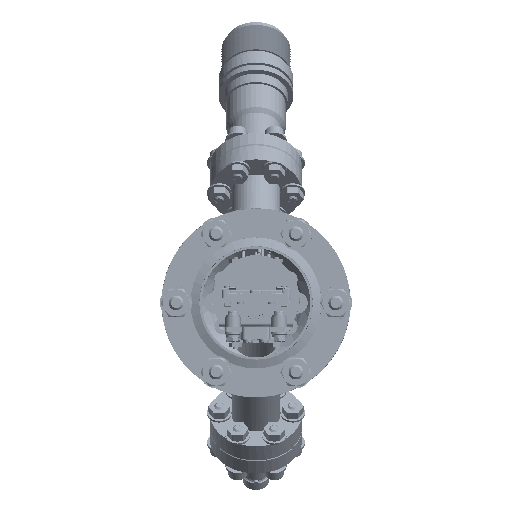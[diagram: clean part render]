
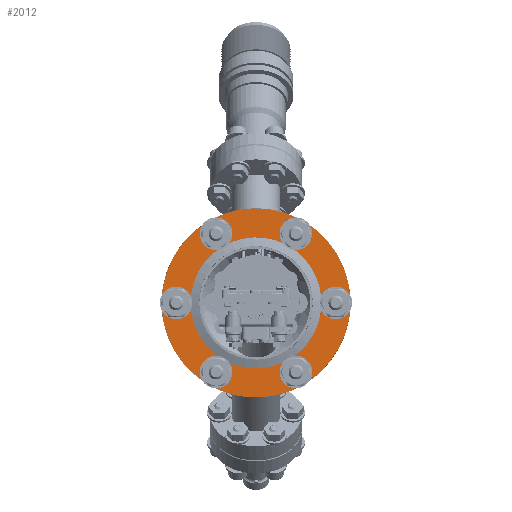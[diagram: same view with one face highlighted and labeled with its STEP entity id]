
A CAD part, left-side view. The second image highlights one B-rep face of the part: STEP entity #2012.
In plain terms, the highlighted planar face has unit normal (-1, 0, 0).
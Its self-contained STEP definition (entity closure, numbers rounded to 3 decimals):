
#1187=AXIS2_PLACEMENT_3D('Circle Axis2P3D',#1185,#1186,$) ;
#1534=AXIS2_PLACEMENT_3D('Circle Axis2P3D',#1532,#1533,$) ;
#1880=AXIS2_PLACEMENT_3D('Plane Axis2P3D',#1877,#1878,#1879) ;
#1888=AXIS2_PLACEMENT_3D('Circle Axis2P3D',#1886,#1887,$) ;
#1897=AXIS2_PLACEMENT_3D('Circle Axis2P3D',#1895,#1896,$) ;
#1906=AXIS2_PLACEMENT_3D('Circle Axis2P3D',#1904,#1905,$) ;
#1915=AXIS2_PLACEMENT_3D('Circle Axis2P3D',#1913,#1914,$) ;
#1924=AXIS2_PLACEMENT_3D('Circle Axis2P3D',#1922,#1923,$) ;
#1933=AXIS2_PLACEMENT_3D('Circle Axis2P3D',#1931,#1932,$) ;
#1942=AXIS2_PLACEMENT_3D('Circle Axis2P3D',#1940,#1941,$) ;
#1951=AXIS2_PLACEMENT_3D('Circle Axis2P3D',#1949,#1950,$) ;
#1960=AXIS2_PLACEMENT_3D('Circle Axis2P3D',#1958,#1959,$) ;
#1969=AXIS2_PLACEMENT_3D('Circle Axis2P3D',#1967,#1968,$) ;
#1978=AXIS2_PLACEMENT_3D('Circle Axis2P3D',#1976,#1977,$) ;
#1987=AXIS2_PLACEMENT_3D('Circle Axis2P3D',#1985,#1986,$) ;
#1996=AXIS2_PLACEMENT_3D('Circle Axis2P3D',#1994,#1995,$) ;
#2005=AXIS2_PLACEMENT_3D('Circle Axis2P3D',#2003,#2004,$) ;
#1182=CARTESIAN_POINT('Vertex',(0.,30.496,16.66)) ;
#1185=CARTESIAN_POINT('Axis2P3D Location',(0.,0.,0.)) ;
#1189=CARTESIAN_POINT('Vertex',(0.,-30.496,-16.66)) ;
#1532=CARTESIAN_POINT('Axis2P3D Location',(0.,0.,0.)) ;
#1877=CARTESIAN_POINT('Axis2P3D Location',(0.,24.1,0.)) ;
#1886=CARTESIAN_POINT('Axis2P3D Location',(0.,-29.35,0.)) ;
#1890=CARTESIAN_POINT('Vertex',(0.,-32.202,-1.558)) ;
#1892=CARTESIAN_POINT('Vertex',(0.,-26.498,1.558)) ;
#1895=CARTESIAN_POINT('Axis2P3D Location',(0.,-29.35,0.)) ;
#1904=CARTESIAN_POINT('Axis2P3D Location',(0.,0.,0.)) ;
#1908=CARTESIAN_POINT('Vertex',(0.,-21.15,-11.554)) ;
#1910=CARTESIAN_POINT('Vertex',(0.,21.15,11.554)) ;
#1913=CARTESIAN_POINT('Axis2P3D Location',(0.,0.,0.)) ;
#1922=CARTESIAN_POINT('Axis2P3D Location',(0.,-14.675,-25.418)) ;
#1926=CARTESIAN_POINT('Vertex',(0.,-11.823,-23.86)) ;
#1928=CARTESIAN_POINT('Vertex',(0.,-17.527,-26.976)) ;
#1931=CARTESIAN_POINT('Axis2P3D Location',(0.,-14.675,-25.418)) ;
#1940=CARTESIAN_POINT('Axis2P3D Location',(0.,14.675,-25.418)) ;
#1944=CARTESIAN_POINT('Vertex',(0.,17.527,-23.86)) ;
#1946=CARTESIAN_POINT('Vertex',(0.,11.823,-26.976)) ;
#1949=CARTESIAN_POINT('Axis2P3D Location',(0.,14.675,-25.418)) ;
#1958=CARTESIAN_POINT('Axis2P3D Location',(0.,29.35,0.)) ;
#1962=CARTESIAN_POINT('Vertex',(0.,32.202,1.558)) ;
#1964=CARTESIAN_POINT('Vertex',(0.,26.498,-1.558)) ;
#1967=CARTESIAN_POINT('Axis2P3D Location',(0.,29.35,0.)) ;
#1976=CARTESIAN_POINT('Axis2P3D Location',(0.,14.675,25.418)) ;
#1980=CARTESIAN_POINT('Vertex',(0.,17.527,26.976)) ;
#1982=CARTESIAN_POINT('Vertex',(0.,11.823,23.86)) ;
#1985=CARTESIAN_POINT('Axis2P3D Location',(0.,14.675,25.418)) ;
#1994=CARTESIAN_POINT('Axis2P3D Location',(0.,-14.675,25.418)) ;
#1998=CARTESIAN_POINT('Vertex',(0.,-11.823,26.976)) ;
#2000=CARTESIAN_POINT('Vertex',(0.,-17.527,23.86)) ;
#2003=CARTESIAN_POINT('Axis2P3D Location',(0.,-14.675,25.418)) ;
#1186=DIRECTION('Axis2P3D Direction',(1.,0.,-0.)) ;
#1533=DIRECTION('Axis2P3D Direction',(1.,0.,0.)) ;
#1878=DIRECTION('Axis2P3D Direction',(1.,0.,0.)) ;
#1879=DIRECTION('Axis2P3D XDirection',(0.,1.,0.)) ;
#1887=DIRECTION('Axis2P3D Direction',(1.,0.,0.)) ;
#1896=DIRECTION('Axis2P3D Direction',(1.,0.,0.)) ;
#1905=DIRECTION('Axis2P3D Direction',(1.,0.,0.)) ;
#1914=DIRECTION('Axis2P3D Direction',(1.,0.,0.)) ;
#1923=DIRECTION('Axis2P3D Direction',(1.,0.,0.)) ;
#1932=DIRECTION('Axis2P3D Direction',(1.,0.,0.)) ;
#1941=DIRECTION('Axis2P3D Direction',(1.,0.,0.)) ;
#1950=DIRECTION('Axis2P3D Direction',(1.,0.,0.)) ;
#1959=DIRECTION('Axis2P3D Direction',(1.,0.,0.)) ;
#1968=DIRECTION('Axis2P3D Direction',(1.,0.,0.)) ;
#1977=DIRECTION('Axis2P3D Direction',(1.,0.,0.)) ;
#1986=DIRECTION('Axis2P3D Direction',(1.,0.,0.)) ;
#1995=DIRECTION('Axis2P3D Direction',(1.,0.,0.)) ;
#2004=DIRECTION('Axis2P3D Direction',(1.,0.,0.)) ;
#1883=ORIENTED_EDGE('',*,*,#1191,.F.) ;
#1884=ORIENTED_EDGE('',*,*,#1536,.F.) ;
#1901=ORIENTED_EDGE('',*,*,#1894,.T.) ;
#1902=ORIENTED_EDGE('',*,*,#1899,.T.) ;
#1919=ORIENTED_EDGE('',*,*,#1912,.T.) ;
#1920=ORIENTED_EDGE('',*,*,#1917,.T.) ;
#1937=ORIENTED_EDGE('',*,*,#1930,.T.) ;
#1938=ORIENTED_EDGE('',*,*,#1935,.T.) ;
#1955=ORIENTED_EDGE('',*,*,#1948,.T.) ;
#1956=ORIENTED_EDGE('',*,*,#1953,.T.) ;
#1973=ORIENTED_EDGE('',*,*,#1966,.T.) ;
#1974=ORIENTED_EDGE('',*,*,#1971,.T.) ;
#1991=ORIENTED_EDGE('',*,*,#1984,.T.) ;
#1992=ORIENTED_EDGE('',*,*,#1989,.T.) ;
#2009=ORIENTED_EDGE('',*,*,#2002,.T.) ;
#2010=ORIENTED_EDGE('',*,*,#2007,.T.) ;
#1903=FACE_BOUND('',#1900,.T.) ;
#1921=FACE_BOUND('',#1918,.T.) ;
#1939=FACE_BOUND('',#1936,.T.) ;
#1957=FACE_BOUND('',#1954,.T.) ;
#1975=FACE_BOUND('',#1972,.T.) ;
#1993=FACE_BOUND('',#1990,.T.) ;
#2011=FACE_BOUND('',#2008,.T.) ;
#2012=ADVANCED_FACE('Brep With Voids.2',(#1885,#1903,#1921,#1939,#1957,#1975,#1993,#2011),#1881,.F.) ;
#1188=CIRCLE('generated circle',#1187,34.75) ;
#1535=CIRCLE('generated circle',#1534,34.75) ;
#1889=CIRCLE('generated circle',#1888,3.25) ;
#1898=CIRCLE('generated circle',#1897,3.25) ;
#1907=CIRCLE('generated circle',#1906,24.1) ;
#1916=CIRCLE('generated circle',#1915,24.1) ;
#1925=CIRCLE('generated circle',#1924,3.25) ;
#1934=CIRCLE('generated circle',#1933,3.25) ;
#1943=CIRCLE('generated circle',#1942,3.25) ;
#1952=CIRCLE('generated circle',#1951,3.25) ;
#1961=CIRCLE('generated circle',#1960,3.25) ;
#1970=CIRCLE('generated circle',#1969,3.25) ;
#1979=CIRCLE('generated circle',#1978,3.25) ;
#1988=CIRCLE('generated circle',#1987,3.25) ;
#1997=CIRCLE('generated circle',#1996,3.25) ;
#2006=CIRCLE('generated circle',#2005,3.25) ;
#1191=EDGE_CURVE('',#1183,#1190,#1188,.T.) ;
#1536=EDGE_CURVE('',#1190,#1183,#1535,.T.) ;
#1894=EDGE_CURVE('',#1891,#1893,#1889,.T.) ;
#1899=EDGE_CURVE('',#1893,#1891,#1898,.T.) ;
#1912=EDGE_CURVE('',#1909,#1911,#1907,.T.) ;
#1917=EDGE_CURVE('',#1911,#1909,#1916,.T.) ;
#1930=EDGE_CURVE('',#1927,#1929,#1925,.T.) ;
#1935=EDGE_CURVE('',#1929,#1927,#1934,.T.) ;
#1948=EDGE_CURVE('',#1945,#1947,#1943,.T.) ;
#1953=EDGE_CURVE('',#1947,#1945,#1952,.T.) ;
#1966=EDGE_CURVE('',#1963,#1965,#1961,.T.) ;
#1971=EDGE_CURVE('',#1965,#1963,#1970,.T.) ;
#1984=EDGE_CURVE('',#1981,#1983,#1979,.T.) ;
#1989=EDGE_CURVE('',#1983,#1981,#1988,.T.) ;
#2002=EDGE_CURVE('',#1999,#2001,#1997,.T.) ;
#2007=EDGE_CURVE('',#2001,#1999,#2006,.T.) ;
#1882=EDGE_LOOP('',(#1883,#1884)) ;
#1900=EDGE_LOOP('',(#1901,#1902)) ;
#1918=EDGE_LOOP('',(#1919,#1920)) ;
#1936=EDGE_LOOP('',(#1937,#1938)) ;
#1954=EDGE_LOOP('',(#1955,#1956)) ;
#1972=EDGE_LOOP('',(#1973,#1974)) ;
#1990=EDGE_LOOP('',(#1991,#1992)) ;
#2008=EDGE_LOOP('',(#2009,#2010)) ;
#1885=FACE_OUTER_BOUND('',#1882,.T.) ;
#1881=PLANE('',#1880) ;
#1183=VERTEX_POINT('',#1182) ;
#1190=VERTEX_POINT('',#1189) ;
#1891=VERTEX_POINT('',#1890) ;
#1893=VERTEX_POINT('',#1892) ;
#1909=VERTEX_POINT('',#1908) ;
#1911=VERTEX_POINT('',#1910) ;
#1927=VERTEX_POINT('',#1926) ;
#1929=VERTEX_POINT('',#1928) ;
#1945=VERTEX_POINT('',#1944) ;
#1947=VERTEX_POINT('',#1946) ;
#1963=VERTEX_POINT('',#1962) ;
#1965=VERTEX_POINT('',#1964) ;
#1981=VERTEX_POINT('',#1980) ;
#1983=VERTEX_POINT('',#1982) ;
#1999=VERTEX_POINT('',#1998) ;
#2001=VERTEX_POINT('',#2000) ;
